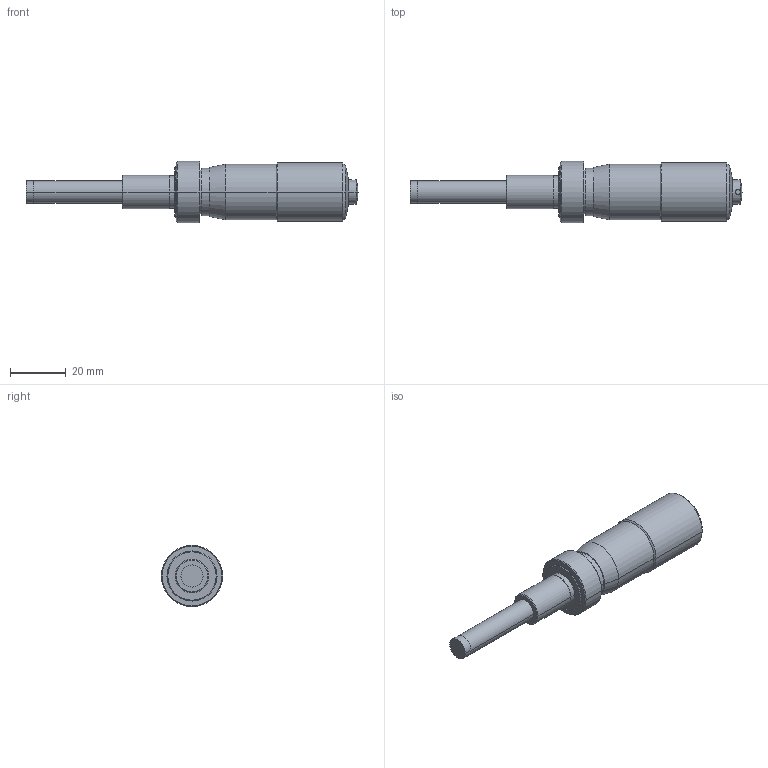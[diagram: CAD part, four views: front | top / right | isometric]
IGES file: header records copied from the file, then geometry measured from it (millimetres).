
Start section: Elysium IGES Interface
Global section: file name: 70HR:\01_商品設計部\01_MK外ﾃｰﾏ(U)\15_MH_3D\IGESﾌｧｲﾙ\151-225_MHH1-25LT.igs; native system: Creo Elements/Direct Modeling 18.1B  29-Sep-2012; preprocessor: Creo Element/Direct IGES_3D V2.2; author: Unknown; organization: Unknown; date: 20140624.084801; units: millimetre
Bounding box: 119.5 x 22 x 22 mm (x, y, z)
Volume: 24344.4 mm3; surface area: 6503.5 mm2
Topology: 1 solids, 1 shells, 52 faces, 104 edges, 61 vertices
Faces by surface type: bspline 52
